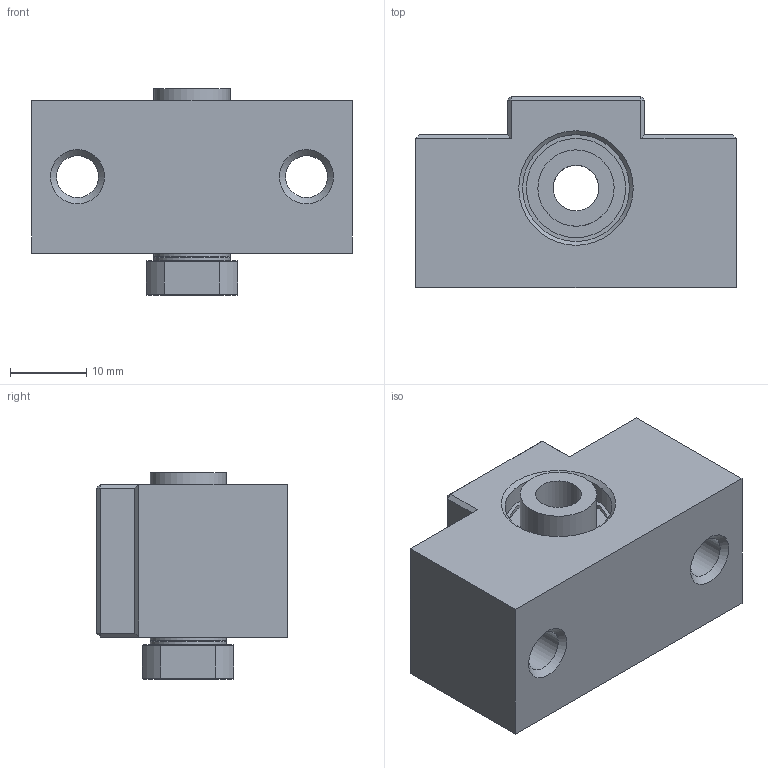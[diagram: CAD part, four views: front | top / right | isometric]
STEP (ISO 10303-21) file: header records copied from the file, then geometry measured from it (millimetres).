
FILE_DESCRIPTION(/* description */ (''),/* implementation_level */ '2;1');
FILE_NAME(/* name */ 'EK6.stp',/* time_stamp */ '2019-07-30T19:09:12+08:00',/* author */ (''),/* organization */ (''),/* preprocessor_version */ 'ST-DEVELOPER v14',/* originating_system */ 'SIEMENS PLM Software NX 8.0',/* authorisation */ '');
FILE_SCHEMA (('AUTOMOTIVE_DESIGN { 1 0 10303 214 3 1 1 1 }'));
Length unit declared in the file: millimetre
Products named in the file (6): M6; GT-10-6-5; EK6-LID; EK6-A; 706; EK6
Assembly tree (7 placements, depth 2):
  EK6
    706  x2
    EK6-A
    EK6-LID
    GT-10-6-5  x2
    M6
Bounding box: 42 x 25 x 27 mm (x, y, z)
Volume: 16618.2 mm3; surface area: 9793 mm2
Topology: 7 solids, 7 shells, 110 faces, 228 edges, 139 vertices
Faces by surface type: plane 62, cylinder 29, cone 17, bspline 2
Full cylindrical faces by diameter (mm): 2.2 x4, 5.5 x2, 6 x5, 9.5 x2, 10 x4, 13 x1, 14 x1, 16 x1, 17 x3
Entity records: 3217 total; most frequent: CARTESIAN_POINT 1026, DIRECTION 433, ORIENTED_EDGE 358, EDGE_CURVE 179, AXIS2_PLACEMENT_3D 173, EDGE_LOOP 151, VERTEX_POINT 122, ADVANCED_FACE 102
